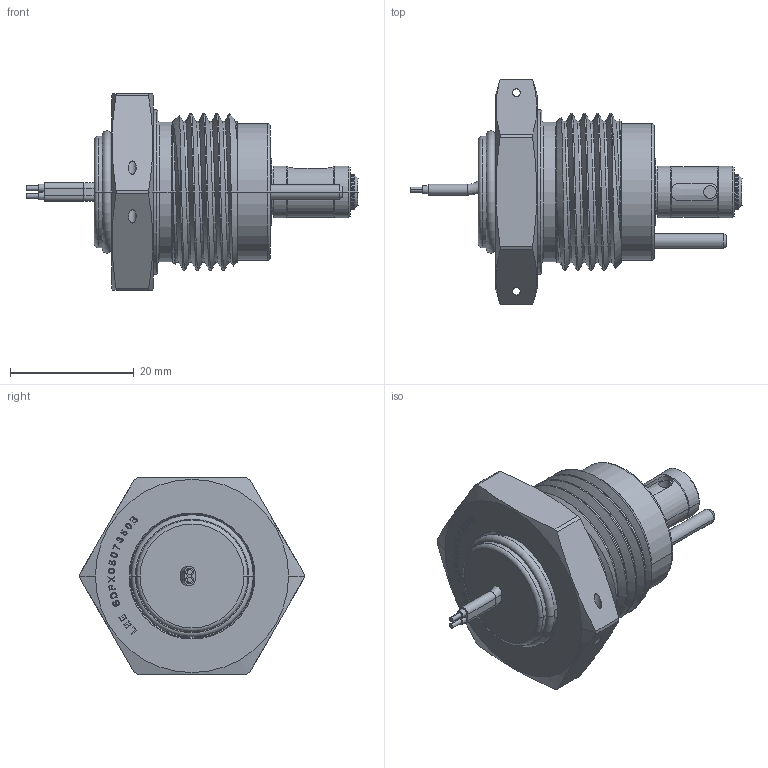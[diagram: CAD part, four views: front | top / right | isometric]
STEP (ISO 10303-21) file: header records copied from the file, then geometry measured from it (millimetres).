
FILE_DESCRIPTION(('Creo Elements/Direct Modeling STEP Export'),'2;1');
FILE_NAME('SDPX0507350B.stp','2024-10-17T 8:39:59',(''),(''),'Creo Elements/Direct Modeling STEP processor for AP214 (Solid Model)','Creo Elements/Direct Modeling 18.1 03-Mar-2012 (C) Parametric Technology GmbH','');
FILE_SCHEMA(('AUTOMOTIVE_DESIGN { 1 0 10303 214 1 1 1 1 }'));
Length unit declared in the file: millimetre
Products named in the file (2): SDPX0507350B
Assembly tree (1 placements, depth 2):
  SDPX0507350B
    SDPX0507350B
Bounding box: 53.7 x 36.32 x 31.75 mm (x, y, z)
Volume: 15422.9 mm3; surface area: 5285 mm2
Topology: 1 solids, 1 shells, 792 faces, 2198 edges, 1447 vertices
Faces by surface type: plane 653, cylinder 79, cone 32, torus 26, bspline 2
Entity records: 29136 total; most frequent: CARTESIAN_POINT 8860, ORIENTED_EDGE 4396, DIRECTION 3702, EDGE_CURVE 2198, VECTOR 1904, LINE 1904, VERTEX_POINT 1447, AXIS2_PLACEMENT_3D 899
